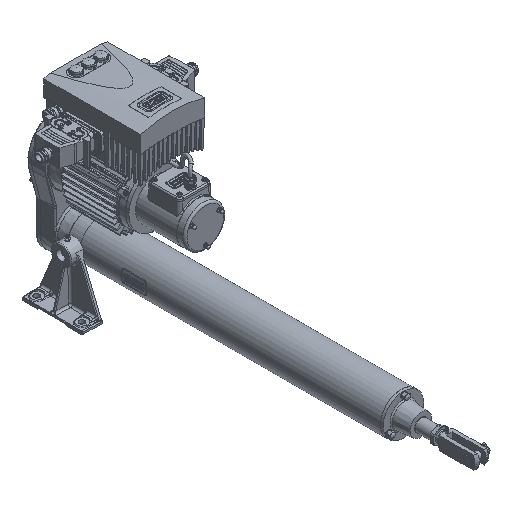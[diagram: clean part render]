
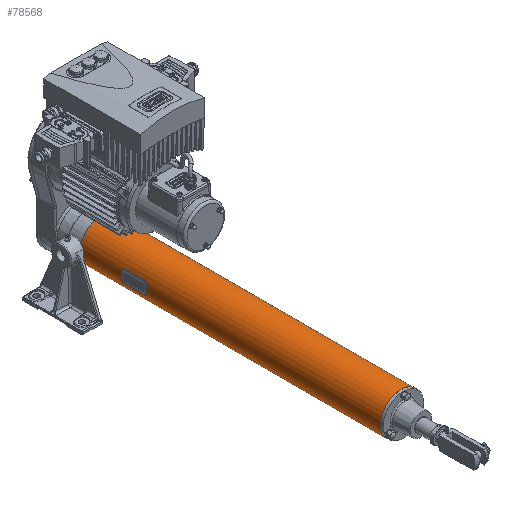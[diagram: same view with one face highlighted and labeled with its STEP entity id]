
A CAD part, isometric view. The second image highlights one B-rep face of the part: STEP entity #78568.
In plain terms, the highlighted cylindrical face has radius 50 mm (diameter 100 mm), a full revolution.
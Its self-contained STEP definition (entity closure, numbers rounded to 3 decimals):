
#3353=LINE('',#105629,#7857);
#3354=LINE('',#105648,#7858);
#3355=LINE('',#105671,#7859);
#3356=LINE('',#105690,#7860);
#7857=VECTOR('',#88663,1000.);
#7858=VECTOR('',#88666,1000.);
#7859=VECTOR('',#88673,1000.);
#7860=VECTOR('',#88676,1000.);
#12190=B_SPLINE_CURVE_WITH_KNOTS('',3,(#105621,#105622,#105623,#105624,
#105625,#105626),.UNSPECIFIED.,.F.,.F.,(4,1,1,4),(0.,0.003,
0.006,0.013),.UNSPECIFIED.);
#12191=B_SPLINE_CURVE_WITH_KNOTS('',3,(#105631,#105632,#105633,#105634,
#105635,#105636,#105637),.UNSPECIFIED.,.F.,.F.,(4,1,1,1,4),(0.,0.003,
0.006,0.01,0.013),
 .UNSPECIFIED.);
#12192=B_SPLINE_CURVE_WITH_KNOTS('',3,(#105641,#105642,#105643,#105644,
#105645,#105646),.UNSPECIFIED.,.F.,.F.,(4,1,1,4),(0.,0.003,
0.006,0.013),.UNSPECIFIED.);
#12193=B_SPLINE_CURVE_WITH_KNOTS('',3,(#105650,#105651,#105652,#105653,
#105654,#105655,#105656),.UNSPECIFIED.,.F.,.F.,(4,1,1,1,4),(0.,0.003,
0.006,0.01,0.013),
 .UNSPECIFIED.);
#12194=B_SPLINE_CURVE_WITH_KNOTS('',3,(#105663,#105664,#105665,#105666,
#105667,#105668),.UNSPECIFIED.,.F.,.F.,(4,1,1,4),(0.,0.003,
0.006,0.013),.UNSPECIFIED.);
#12195=B_SPLINE_CURVE_WITH_KNOTS('',3,(#105673,#105674,#105675,#105676,
#105677,#105678,#105679),.UNSPECIFIED.,.F.,.F.,(4,1,1,1,4),(0.,0.003,
0.006,0.01,0.013),
 .UNSPECIFIED.);
#12196=B_SPLINE_CURVE_WITH_KNOTS('',3,(#105683,#105684,#105685,#105686,
#105687,#105688),.UNSPECIFIED.,.F.,.F.,(4,1,1,4),(0.,0.003,
0.006,0.013),.UNSPECIFIED.);
#12197=B_SPLINE_CURVE_WITH_KNOTS('',3,(#105692,#105693,#105694,#105695,
#105696,#105697,#105698),.UNSPECIFIED.,.F.,.F.,(4,1,1,1,4),(0.,0.003,
0.006,0.01,0.013),
 .UNSPECIFIED.);
#13589=ORIENTED_EDGE('',*,*,#29795,.F.);
#13590=ORIENTED_EDGE('',*,*,#29796,.F.);
#13591=ORIENTED_EDGE('',*,*,#29797,.F.);
#13592=ORIENTED_EDGE('',*,*,#29798,.F.);
#13593=ORIENTED_EDGE('',*,*,#29799,.F.);
#13594=ORIENTED_EDGE('',*,*,#29800,.F.);
#13595=ORIENTED_EDGE('',*,*,#29801,.F.);
#13596=ORIENTED_EDGE('',*,*,#29802,.F.);
#13597=ORIENTED_EDGE('',*,*,#29803,.F.);
#13598=ORIENTED_EDGE('',*,*,#29804,.T.);
#13599=ORIENTED_EDGE('',*,*,#29805,.F.);
#13600=ORIENTED_EDGE('',*,*,#29806,.F.);
#13601=ORIENTED_EDGE('',*,*,#29807,.F.);
#13602=ORIENTED_EDGE('',*,*,#29808,.F.);
#13603=ORIENTED_EDGE('',*,*,#29809,.F.);
#13604=ORIENTED_EDGE('',*,*,#29810,.F.);
#13605=ORIENTED_EDGE('',*,*,#29811,.F.);
#13606=ORIENTED_EDGE('',*,*,#29812,.F.);
#29795=EDGE_CURVE('',#37942,#37943,#12190,.T.);
#29796=EDGE_CURVE('',#37944,#37942,#3353,.F.);
#29797=EDGE_CURVE('',#37945,#37944,#12191,.T.);
#29798=EDGE_CURVE('',#37946,#37945,#43248,.T.);
#29799=EDGE_CURVE('',#37947,#37946,#12192,.T.);
#29800=EDGE_CURVE('',#37948,#37947,#3354,.T.);
#29801=EDGE_CURVE('',#37949,#37948,#12193,.T.);
#29802=EDGE_CURVE('',#37943,#37949,#43249,.T.);
#29803=EDGE_CURVE('',#37950,#37950,#43250,.T.);
#29804=EDGE_CURVE('',#37951,#37951,#43251,.T.);
#29805=EDGE_CURVE('',#37952,#37953,#12194,.T.);
#29806=EDGE_CURVE('',#37954,#37952,#3355,.T.);
#29807=EDGE_CURVE('',#37955,#37954,#12195,.T.);
#29808=EDGE_CURVE('',#37956,#37955,#43252,.T.);
#29809=EDGE_CURVE('',#37957,#37956,#12196,.T.);
#29810=EDGE_CURVE('',#37958,#37957,#3356,.F.);
#29811=EDGE_CURVE('',#37959,#37958,#12197,.T.);
#29812=EDGE_CURVE('',#37953,#37959,#43253,.T.);
#37942=VERTEX_POINT('',#105627);
#37943=VERTEX_POINT('',#105628);
#37944=VERTEX_POINT('',#105630);
#37945=VERTEX_POINT('',#105638);
#37946=VERTEX_POINT('',#105640);
#37947=VERTEX_POINT('',#105647);
#37948=VERTEX_POINT('',#105649);
#37949=VERTEX_POINT('',#105657);
#37950=VERTEX_POINT('',#105660);
#37951=VERTEX_POINT('',#105662);
#37952=VERTEX_POINT('',#105669);
#37953=VERTEX_POINT('',#105670);
#37954=VERTEX_POINT('',#105672);
#37955=VERTEX_POINT('',#105680);
#37956=VERTEX_POINT('',#105682);
#37957=VERTEX_POINT('',#105689);
#37958=VERTEX_POINT('',#105691);
#37959=VERTEX_POINT('',#105699);
#43248=CIRCLE('',#82171,50.);
#43249=CIRCLE('',#82172,50.);
#43250=CIRCLE('',#82173,50.);
#43251=CIRCLE('',#82174,50.);
#43252=CIRCLE('',#82175,50.);
#43253=CIRCLE('',#82176,50.);
#45606=EDGE_LOOP('',(#13589,#13590,#13591,#13592,#13593,#13594,#13595,#13596));
#45607=EDGE_LOOP('',(#13597));
#45608=EDGE_LOOP('',(#13598));
#45609=EDGE_LOOP('',(#13599,#13600,#13601,#13602,#13603,#13604,#13605,#13606));
#49761=FACE_BOUND('',#45606,.T.);
#49762=FACE_BOUND('',#45607,.T.);
#49763=FACE_BOUND('',#45608,.T.);
#49764=FACE_BOUND('',#45609,.T.);
#53799=CYLINDRICAL_SURFACE('',#82170,50.);
#78568=ADVANCED_FACE('',(#49761,#49762,#49763,#49764),#53799,.T.);
#82170=AXIS2_PLACEMENT_3D('',#105620,#88661,#88662);
#82171=AXIS2_PLACEMENT_3D('',#105639,#88664,#88665);
#82172=AXIS2_PLACEMENT_3D('',#105658,#88667,#88668);
#82173=AXIS2_PLACEMENT_3D('',#105659,#88669,#88670);
#82174=AXIS2_PLACEMENT_3D('',#105661,#88671,#88672);
#82175=AXIS2_PLACEMENT_3D('',#105681,#88674,#88675);
#82176=AXIS2_PLACEMENT_3D('',#105700,#88677,#88678);
#88661=DIRECTION('',(0.,-1.,0.));
#88662=DIRECTION('',(0.,0.,-1.));
#88663=DIRECTION('',(0.,-1.,0.));
#88664=DIRECTION('',(0.,1.,0.));
#88665=DIRECTION('',(0.,0.,1.));
#88666=DIRECTION('',(0.,-1.,0.));
#88667=DIRECTION('',(0.,-1.,0.));
#88668=DIRECTION('',(0.,0.,-1.));
#88669=DIRECTION('',(0.,1.,0.));
#88670=DIRECTION('',(1.,0.,0.));
#88671=DIRECTION('',(0.,1.,0.));
#88672=DIRECTION('',(1.,0.,0.));
#88673=DIRECTION('',(0.,-1.,0.));
#88674=DIRECTION('',(0.,-1.,0.));
#88675=DIRECTION('',(0.,0.,-1.));
#88676=DIRECTION('',(0.,-1.,0.));
#88677=DIRECTION('',(0.,1.,0.));
#88678=DIRECTION('',(0.,0.,1.));
#105620=CARTESIAN_POINT('',(0.,733.,0.));
#105621=CARTESIAN_POINT('',(-47.371,625.,16.));
#105622=CARTESIAN_POINT('',(-47.371,626.072,16.));
#105623=CARTESIAN_POINT('',(-47.519,628.18,15.568));
#105624=CARTESIAN_POINT('',(-48.276,631.717,13.176));
#105625=CARTESIAN_POINT('',(-49.013,633.,10.115));
#105626=CARTESIAN_POINT('',(-49.356,633.,8.));
#105627=CARTESIAN_POINT('',(-47.371,625.,16.));
#105628=CARTESIAN_POINT('',(-49.356,633.,8.));
#105629=CARTESIAN_POINT('',(-47.371,733.,16.));
#105630=CARTESIAN_POINT('',(-47.371,579.,16.));
#105631=CARTESIAN_POINT('',(-49.356,571.,8.));
#105632=CARTESIAN_POINT('',(-49.184,571.,9.058));
#105633=CARTESIAN_POINT('',(-48.777,571.417,11.128));
#105634=CARTESIAN_POINT('',(-48.085,573.168,13.773));
#105635=CARTESIAN_POINT('',(-47.521,575.811,15.564));
#105636=CARTESIAN_POINT('',(-47.371,577.928,16.));
#105637=CARTESIAN_POINT('',(-47.371,579.,16.));
#105638=CARTESIAN_POINT('',(-49.356,571.,8.));
#105639=CARTESIAN_POINT('',(0.,571.,0.));
#105640=CARTESIAN_POINT('',(-49.356,571.,-8.));
#105641=CARTESIAN_POINT('',(-47.371,579.,-16.));
#105642=CARTESIAN_POINT('',(-47.371,577.928,-16.));
#105643=CARTESIAN_POINT('',(-47.519,575.82,-15.568));
#105644=CARTESIAN_POINT('',(-48.276,572.283,-13.176));
#105645=CARTESIAN_POINT('',(-49.013,571.,-10.115));
#105646=CARTESIAN_POINT('',(-49.356,571.,-8.));
#105647=CARTESIAN_POINT('',(-47.371,579.,-16.));
#105648=CARTESIAN_POINT('',(-47.371,733.,-16.));
#105649=CARTESIAN_POINT('',(-47.371,625.,-16.));
#105650=CARTESIAN_POINT('',(-49.356,633.,-8.));
#105651=CARTESIAN_POINT('',(-49.184,633.,-9.058));
#105652=CARTESIAN_POINT('',(-48.777,632.583,-11.128));
#105653=CARTESIAN_POINT('',(-48.085,630.832,-13.773));
#105654=CARTESIAN_POINT('',(-47.521,628.189,-15.564));
#105655=CARTESIAN_POINT('',(-47.371,626.072,-16.));
#105656=CARTESIAN_POINT('',(-47.371,625.,-16.));
#105657=CARTESIAN_POINT('',(-49.356,633.,-8.));
#105658=CARTESIAN_POINT('',(0.,633.,0.));
#105659=CARTESIAN_POINT('',(0.,733.,0.));
#105660=CARTESIAN_POINT('',(50.,733.,0.));
#105661=CARTESIAN_POINT('',(0.,0.,0.));
#105662=CARTESIAN_POINT('',(50.,0.,0.));
#105663=CARTESIAN_POINT('',(47.371,579.,16.));
#105664=CARTESIAN_POINT('',(47.371,577.928,16.));
#105665=CARTESIAN_POINT('',(47.519,575.82,15.568));
#105666=CARTESIAN_POINT('',(48.276,572.283,13.176));
#105667=CARTESIAN_POINT('',(49.013,571.,10.115));
#105668=CARTESIAN_POINT('',(49.356,571.,8.));
#105669=CARTESIAN_POINT('',(47.371,579.,16.));
#105670=CARTESIAN_POINT('',(49.356,571.,8.));
#105671=CARTESIAN_POINT('',(47.371,733.,16.));
#105672=CARTESIAN_POINT('',(47.371,625.,16.));
#105673=CARTESIAN_POINT('',(49.356,633.,8.));
#105674=CARTESIAN_POINT('',(49.184,633.,9.058));
#105675=CARTESIAN_POINT('',(48.777,632.583,11.128));
#105676=CARTESIAN_POINT('',(48.085,630.832,13.773));
#105677=CARTESIAN_POINT('',(47.521,628.189,15.564));
#105678=CARTESIAN_POINT('',(47.371,626.072,16.));
#105679=CARTESIAN_POINT('',(47.371,625.,16.));
#105680=CARTESIAN_POINT('',(49.356,633.,8.));
#105681=CARTESIAN_POINT('',(0.,633.,0.));
#105682=CARTESIAN_POINT('',(49.356,633.,-8.));
#105683=CARTESIAN_POINT('',(47.371,625.,-16.));
#105684=CARTESIAN_POINT('',(47.371,626.072,-16.));
#105685=CARTESIAN_POINT('',(47.519,628.18,-15.568));
#105686=CARTESIAN_POINT('',(48.276,631.717,-13.176));
#105687=CARTESIAN_POINT('',(49.013,633.,-10.115));
#105688=CARTESIAN_POINT('',(49.356,633.,-8.));
#105689=CARTESIAN_POINT('',(47.371,625.,-16.));
#105690=CARTESIAN_POINT('',(47.371,733.,-16.));
#105691=CARTESIAN_POINT('',(47.371,579.,-16.));
#105692=CARTESIAN_POINT('',(49.356,571.,-8.));
#105693=CARTESIAN_POINT('',(49.184,571.,-9.058));
#105694=CARTESIAN_POINT('',(48.777,571.417,-11.128));
#105695=CARTESIAN_POINT('',(48.085,573.168,-13.773));
#105696=CARTESIAN_POINT('',(47.521,575.811,-15.564));
#105697=CARTESIAN_POINT('',(47.371,577.928,-16.));
#105698=CARTESIAN_POINT('',(47.371,579.,-16.));
#105699=CARTESIAN_POINT('',(49.356,571.,-8.));
#105700=CARTESIAN_POINT('',(0.,571.,0.));
